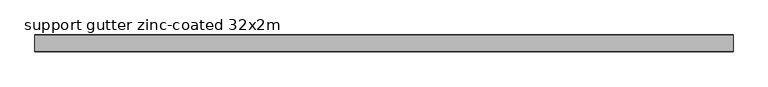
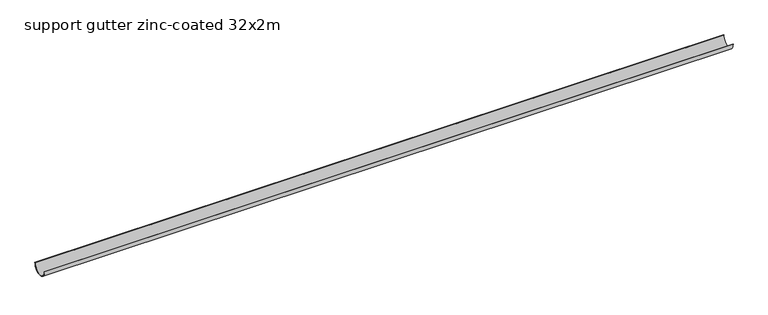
"""IFC4 building model written with IfcOpenShell, lengths in millimetres: valve geometry, PP-R_Support gutter zinc-coated : support gutter zinc-coated 32x2m."""

import ifcopenshell
import ifcopenshell.guid

model = None  # the IFC model being written
_history = None  # IfcOwnerHistory: only IFC2X3 demands one
_inside = {}  # id of a spatial element -> (the spatial element, [elements in it])
_under = {}  # id of a project, library or spatial element -> (it, [spatial elements below it])
_declared = {}  # id of a project -> (the project, [libraries it declares])
_typed = {}  # id of a type object -> (the type object, [elements of that type])
_made_of = {}  # id of a material, layer set ... -> (it, [elements and type objects made of it])


def new_model(schema):
    """Start an empty IFC model of exactly this schema.

    Asked for "IFC4X3", IfcOpenShell would pick the latest addendum, in which some entities
    have other attributes; the version numbers below select the first issue.
    IFC2X3 requires an IfcOwnerHistory on every rooted entity: one is made here for all.
    """
    global model, _history
    if schema == "IFC4X3":
        model = ifcopenshell.file(schema_version=(4, 3, 0, 0))
    else:
        model = ifcopenshell.file(schema=schema)
    _inside.clear()
    _under.clear()
    _declared.clear()
    _typed.clear()
    _made_of.clear()
    _history = None
    if model.schema == "IFC2X3":
        org = make("IfcOrganization", Name="unknown")
        user = make(
            "IfcPersonAndOrganization",
            ThePerson=make("IfcPerson", FamilyName="unknown"),
            TheOrganization=org,
        )
        app = make(
            "IfcApplication",
            ApplicationDeveloper=org,
            Version="unknown",
            ApplicationFullName="unknown",
            ApplicationIdentifier="unknown",
        )
        _history = make(
            "IfcOwnerHistory",
            OwningUser=user,
            OwningApplication=app,
            ChangeAction="ADDED",
            CreationDate=0,
        )
    return model


def make(cls, **values):
    """One entity of the class cls with the attributes given. An attribute that is None is left unset."""
    return model.create_entity(
        cls, **{name: value for name, value in values.items() if value is not None}
    )


def rooted(cls, **values):
    """An entity with a GlobalId (a new one), such as an element, a storey or a relation."""
    return make(cls, GlobalId=ifcopenshell.guid.new(), OwnerHistory=_history, **values)


def si_unit(unit_type, name, prefix=None):
    """IfcSIUnit, for example si_unit("LENGTHUNIT", "METRE", prefix="MILLI")."""
    return make("IfcSIUnit", UnitType=unit_type, Prefix=prefix, Name=name)


def assignment(units):
    """IfcUnitAssignment: the units of a project."""
    return None if units is None else make("IfcUnitAssignment", Units=units)


def point(xyz):
    """IfcCartesianPoint."""
    return None if xyz is None else make("IfcCartesianPoint", Coordinates=xyz)


def direction(xyz):
    """IfcDirection."""
    return None if xyz is None else make("IfcDirection", DirectionRatios=xyz)


def frame(location, z_axis=None, x_axis=None):
    """IfcAxis2Placement3D, a coordinate frame: its origin and axes. An axis left out is left unset."""
    return make(
        "IfcAxis2Placement3D",
        Location=point(location),
        Axis=direction(z_axis),
        RefDirection=direction(x_axis),
    )


def frame_2d(location, x_axis=None):
    """IfcAxis2Placement2D, a coordinate frame in the plane: its origin and x axis."""
    return make(
        "IfcAxis2Placement2D", Location=point(location), RefDirection=direction(x_axis)
    )


def origin():
    """The frame at (0, 0, 0) with its axes left unset."""
    return frame((0.0, 0.0, 0.0))


def place(relative_to, where):
    """IfcLocalPlacement: puts the frame where relative to a parent placement (None: the world)."""
    return make(
        "IfcLocalPlacement", PlacementRelTo=relative_to, RelativePlacement=where
    )


def context(
    kind, dimensions, precision=None, world=None, true_north=None, identifier=None
):
    """IfcGeometricRepresentationContext, for example the 3D "Model" context."""
    return make(
        "IfcGeometricRepresentationContext",
        ContextIdentifier=identifier,
        ContextType=kind,
        CoordinateSpaceDimension=dimensions,
        Precision=precision,
        WorldCoordinateSystem=world,
        TrueNorth=true_north,
    )


def project(units=None, contexts=None):
    """IfcProject with its units and contexts."""
    return rooted(
        "IfcProject",
        Name="project",
        RepresentationContexts=contexts,
        UnitsInContext=assignment(units),
    )


def spatial(cls, under=None, at=None, **own):
    """A site, building, storey or space (cls), placed at a placement, below another one or the project."""
    s = rooted(cls, ObjectPlacement=at, **own)
    if under is not None:
        _under.setdefault(under.id(), (under, []))[1].append(s)
    return s


def polyline(points):
    """IfcPolyline through the points."""
    return make("IfcPolyline", Points=[point(p) for p in points])


def circle_curve(where, radius):
    """IfcCircle in the frame where."""
    return make("IfcCircle", Position=where, Radius=radius)


def trimmed(basis, trim1, trim2, sense, master):
    """IfcTrimmedCurve: the piece of a basis curve between two trims."""
    return make(
        "IfcTrimmedCurve",
        BasisCurve=basis,
        Trim1=trim1,
        Trim2=trim2,
        SenseAgreement=sense,
        MasterRepresentation=master,
    )


def segment(curve, same_sense, transition):
    """IfcCompositeCurveSegment."""
    return make(
        "IfcCompositeCurveSegment",
        Transition=transition,
        SameSense=same_sense,
        ParentCurve=curve,
    )


def composite_curve(segments, self_intersect=None):
    """IfcCompositeCurve: segments joined end to end."""
    return make("IfcCompositeCurve", Segments=segments, SelfIntersect=self_intersect)


def outline(outer, holes=None, kind="AREA"):
    """IfcArbitraryClosedProfileDef: a profile drawn as a closed curve; with holes, ...WithVoids."""
    if holes is None:
        return make("IfcArbitraryClosedProfileDef", ProfileType=kind, OuterCurve=outer)
    return make(
        "IfcArbitraryProfileDefWithVoids",
        ProfileType=kind,
        OuterCurve=outer,
        InnerCurves=holes,
    )


def extrude(swept, where, along, depth):
    """IfcExtrudedAreaSolid: the profile swept, set in the frame where, extruded along a direction by depth."""
    return make(
        "IfcExtrudedAreaSolid",
        SweptArea=swept,
        Position=where,
        ExtrudedDirection=direction(along),
        Depth=depth,
    )


def shape(context_of_items, identifier, shape_type, items):
    """IfcShapeRepresentation: the items that make up one representation, for example the "Body"."""
    return make(
        "IfcShapeRepresentation",
        ContextOfItems=context_of_items,
        RepresentationIdentifier=identifier,
        RepresentationType=shape_type,
        Items=items,
    )


def source(mapping_origin, context_of_items, identifier, shape_type, items):
    """IfcRepresentationMap: a shape defined once, which mapped items show again and again."""
    return make(
        "IfcRepresentationMap",
        MappingOrigin=mapping_origin,
        MappedRepresentation=shape(context_of_items, identifier, shape_type, items),
    )


def transform(
    local_origin,
    x_axis=None,
    y_axis=None,
    z_axis=None,
    scale=None,
    scale2=None,
    scale3=None,
    uniform=True,
):
    """IfcCartesianTransformationOperator3D, or its non-uniform kind. x_axis, y_axis, z_axis: its Axis1, 2, 3."""
    if uniform:
        return make(
            "IfcCartesianTransformationOperator3D",
            Axis1=direction(x_axis),
            Axis2=direction(y_axis),
            LocalOrigin=point(local_origin),
            Scale=scale,
            Axis3=direction(z_axis),
        )
    return make(
        "IfcCartesianTransformationOperator3DnonUniform",
        Axis1=direction(x_axis),
        Axis2=direction(y_axis),
        LocalOrigin=point(local_origin),
        Scale=scale,
        Axis3=direction(z_axis),
        Scale2=scale2,
        Scale3=scale3,
    )


def mapped(mapping_source, mapping_target):
    """IfcMappedItem: shows the shape of a source again, moved by a transform."""
    return make(
        "IfcMappedItem", MappingSource=mapping_source, MappingTarget=mapping_target
    )


def made_of(thing, what):
    """Note that an element or type object is made of a material, layer set ...; save() writes the relation."""
    if what is not None:
        _made_of.setdefault(what.id(), (what, []))[1].append(thing)
    return thing


def element(
    cls,
    number,
    at=None,
    inside=None,
    cuts=None,
    type_object=None,
    material=None,
    context=None,
    identifier="Body",
    shape_type=None,
    held_by="IfcProductDefinitionShape",
    body=None,
    shapes=None,
    **own,
):
    """One element of the class cls, such as IfcWall. Its Tag is "e" and its number.

    at: its placement. inside: the storey or other place that contains it. cuts: it is an
    opening in that element (IfcRelVoidsElement). A single representation is given by context,
    identifier, shape_type and body (its items); several are given by shapes. held_by: the class
    of the entity that holds the representations. save() writes the other relations.
    """
    e = rooted(cls, Tag="e%d" % number, ObjectPlacement=at, **own)
    if body is not None:
        shapes = [shape(context, identifier, shape_type, body)]
    if shapes is not None:
        e.Representation = make(held_by, Representations=shapes)
    if inside is not None:
        _inside.setdefault(inside.id(), (inside, []))[1].append(e)
    if cuts is not None:
        rooted(
            "IfcRelVoidsElement", RelatingBuildingElement=cuts, RelatedOpeningElement=e
        )
    if type_object is not None:
        _typed.setdefault(type_object.id(), (type_object, []))[1].append(e)
    return made_of(e, material)


def aggregate(whole, parts):
    """IfcRelAggregates: a whole, such as a stair, and the parts it consists of."""
    return rooted("IfcRelAggregates", RelatingObject=whole, RelatedObjects=parts)


def save(model, path):
    """Write the relations noted so far, then the file.

    IfcRelAggregates (storeys below a building ...), IfcRelContainedInSpatialStructure (elements
    in a storey), IfcRelDefinesByType, IfcRelAssociatesMaterial and IfcRelDeclares: one each for
    every whole, place, type object, material and project.
    """
    for whole, parts in _under.values():
        aggregate(whole, parts)
    for where, things in _inside.values():
        rooted(
            "IfcRelContainedInSpatialStructure",
            RelatedElements=things,
            RelatingStructure=where,
        )
    for kind, things in _typed.values():
        rooted("IfcRelDefinesByType", RelatedObjects=things, RelatingType=kind)
    for what, things in _made_of.values():
        rooted("IfcRelAssociatesMaterial", RelatedObjects=things, RelatingMaterial=what)
    for by, libraries in _declared.values():
        rooted("IfcRelDeclares", RelatingContext=by, RelatedDefinitions=libraries)
    model.write(path)


def support_gutter_zinc_coated_32x2m_89c11884(model_context):
    return source(origin(), model_context, "Body", "SweptSolid", [
        extrude(outline(composite_curve([segment(trimmed(circle_curve(frame_2d((0.0, -17.0)), 17.0), [point((-17.0, -17.0))], [point((17.0, -17.0))], True, "CARTESIAN"), True, "CONTINUOUS"), segment(polyline([(17.0, -17.0), (18.0, -17.0)]), True, "CONTINUOUS"), segment(trimmed(circle_curve(frame_2d((0.0, -17.0)), 18.0), [point((18.0, -17.0))], [point((-18.0, -17.0))], False, "CARTESIAN"), True, "CONTINUOUS"), segment(polyline([(-18.0, -17.0), (-17.0, -17.0)]), True, "CONTINUOUS")], self_intersect=False)), frame((9.5156627, 0.0, 0.0), z_axis=(1.0, 0.0, 0.0), x_axis=(0.0, 1.0, 0.0)), (0.0, 0.0, 1.0), 1500.0),
    ])


if __name__ == "__main__":
    model = new_model("IFC4")
    model_context = context("Model", 3, world=origin())
    ifc_project = project(units=[si_unit("LENGTHUNIT", "METRE", prefix="MILLI")], contexts=[model_context])
    site = spatial("IfcSite", under=ifc_project)
    building = spatial("IfcBuilding", under=site)
    placement = place(None, origin())
    support_gutter_zinc_coated_32x2m_shape = support_gutter_zinc_coated_32x2m_89c11884(model_context)
    element("IfcValve", 1, ObjectType="PP-R_Support gutter zinc-coated : support gutter zinc-coated 32x2m", at=placement, inside=building, context=model_context, shape_type="MappedRepresentation", body=[
        mapped(support_gutter_zinc_coated_32x2m_shape, transform((0.0, 0.0, 0.0), x_axis=(1.0, 0.0, 0.0), y_axis=(0.0, 1.0, 0.0), z_axis=(0.0, 0.0, 1.0))),
    ])
    save(model, "model.ifc")
